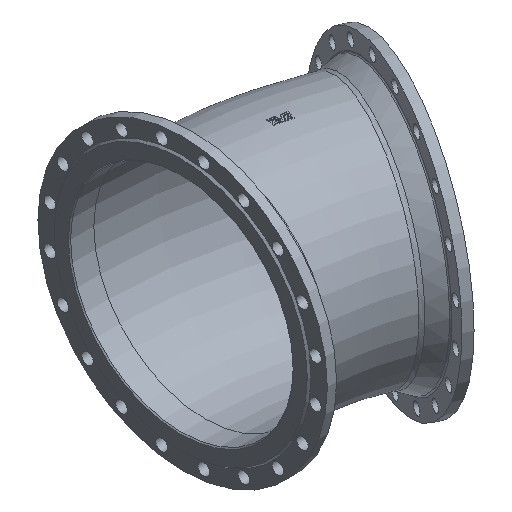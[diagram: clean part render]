
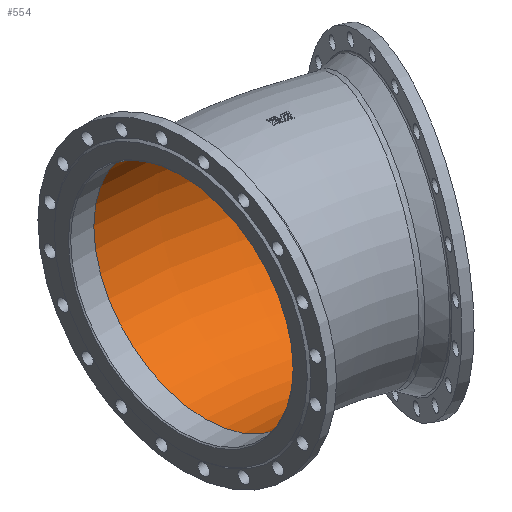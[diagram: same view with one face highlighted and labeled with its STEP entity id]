
A CAD part, isometric view. The second image highlights one B-rep face of the part: STEP entity #554.
In plain terms, the highlighted toroidal (fillet/blend) face has major radius 947 mm and minor radius 300 mm.
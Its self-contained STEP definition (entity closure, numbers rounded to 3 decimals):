
#23 = DIRECTION ( 'NONE',  ( 0.383, 0.924, 0. ) ) ;
#426 = DIRECTION ( 'NONE',  ( 0.924, -0.383, 0. ) ) ;
#554 = ADVANCED_FACE ( 'NONE', ( #933, #3736 ), #5080, .F. ) ;
#739 = VERTEX_POINT ( 'NONE', #4496 ) ;
#771 = AXIS2_PLACEMENT_3D ( 'NONE', #1237, #426, #23 ) ;
#933 = FACE_OUTER_BOUND ( 'NONE', #3832, .T. ) ;
#1080 = AXIS2_PLACEMENT_3D ( 'NONE', #3349, #1346, #3404 ) ;
#1183 = ORIENTED_EDGE ( 'NONE', *, *, #4132, .T. ) ;
#1237 = CARTESIAN_POINT ( 'NONE',  ( 174.031, -72.086, 0. ) ) ;
#1346 = DIRECTION ( 'NONE',  ( 0., 0., -1. ) ) ;
#1800 = CARTESIAN_POINT ( 'NONE',  ( -188.37, 0., 0. ) ) ;
#1911 = CIRCLE ( 'NONE', #4427, 300. ) ;
#2022 = CARTESIAN_POINT ( 'NONE',  ( 288.836, 205.078, 0. ) ) ;
#2202 = DIRECTION ( 'NONE',  ( 1., 0., 0. ) ) ;
#2420 = CIRCLE ( 'NONE', #771, 300. ) ;
#3349 = CARTESIAN_POINT ( 'NONE',  ( -188.37, -947., 0. ) ) ;
#3404 = DIRECTION ( 'NONE',  ( -1., 0., 0. ) ) ;
#3449 = DIRECTION ( 'NONE',  ( 0., 1., 0. ) ) ;
#3736 = FACE_OUTER_BOUND ( 'NONE', #4397, .T. ) ;
#3832 = EDGE_LOOP ( 'NONE', ( #1183 ) ) ;
#4132 = EDGE_CURVE ( 'NONE', #4142, #4142, #2420, .T. ) ;
#4142 = VERTEX_POINT ( 'NONE', #2022 ) ;
#4257 = EDGE_CURVE ( 'NONE', #739, #739, #1911, .T. ) ;
#4397 = EDGE_LOOP ( 'NONE', ( #5350 ) ) ;
#4427 = AXIS2_PLACEMENT_3D ( 'NONE', #1800, #2202, #3449 ) ;
#4496 = CARTESIAN_POINT ( 'NONE',  ( -188.37, 300., 0. ) ) ;
#5080 = TOROIDAL_SURFACE ( 'NONE', #1080, 947., 300. ) ;
#5350 = ORIENTED_EDGE ( 'NONE', *, *, #4257, .F. ) ;
